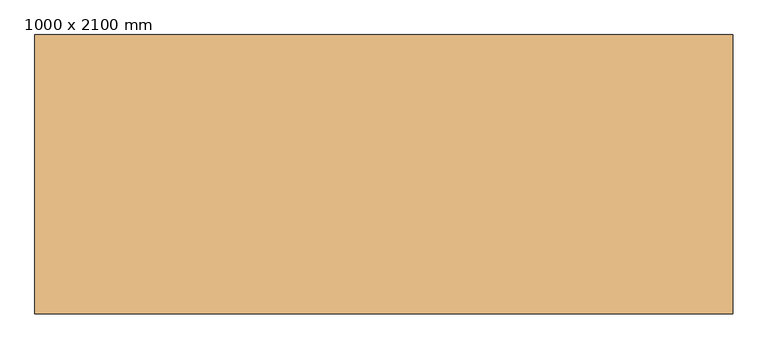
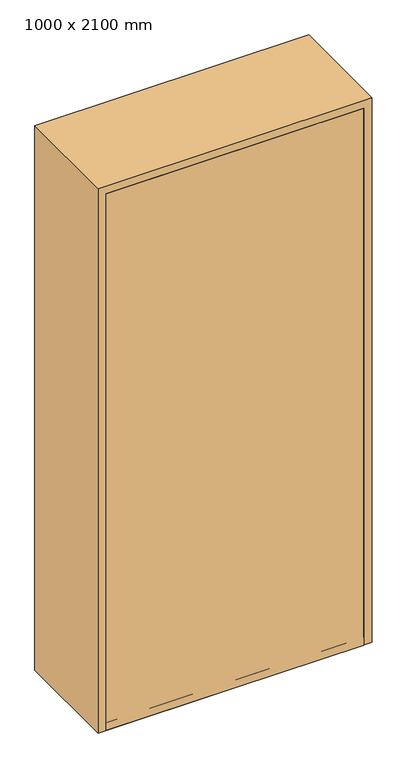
"""IFC4 building model written with IfcOpenShell, lengths in millimetres: door geometry, 외여닫이 SD : 1000 x 2100 mm."""

from ifc_helpers import new_model, si_unit, origin, origin_with_axes, place, context, project, spatial, polyline, outline, extrude, faceted_brep, source, transform, mapped, element, save


def door_1000_x_2100_mm_43353cf2(model_context):
    return source(origin(), model_context, "Body", "SolidModel", [
        extrude(outline(polyline([(-470.0, -200.0), (-470.0, -150.0), (470.0, -150.0), (470.0, -200.0), (-470.0, -200.0)])), origin_with_axes(), (0.0, 0.0, 1.0), 2070.0),
        faceted_brep([(500.0, 200.0, 2100.0), (-500.0, 200.0, 2100.0), (-500.0, -200.0, 2100.0), (500.0, -200.0, 2100.0), (455.0, -150.0, 2055.0), (-455.0, -150.0, 2055.0), (-455.0, 200.0, 2055.0), (455.0, 200.0, 2055.0), (470.0, -200.0, 2070.0), (-470.0, -200.0, 2070.0), (-470.0, -150.0, 2070.0), (470.0, -150.0, 2070.0), (-500.0, 200.0, 0.0), (-500.0, -200.0, 0.0), (-455.0, -150.0, 45.0), (-455.0, 200.0, 45.0), (-470.0, -200.0, 30.0), (-470.0, -150.0, 30.0), (500.0, 200.0, 0.0), (500.0, -200.0, 0.0), (455.0, -150.0, 45.0), (455.0, 200.0, 45.0), (470.0, -200.0, 30.0), (470.0, -150.0, 30.0)], [[[0, 1, 2, 3]], [[4, 5, 6, 7]], [[8, 9, 10, 11]], [[1, 12, 13, 2]], [[5, 14, 15, 6]], [[9, 16, 17, 10]], [[12, 18, 19, 13]], [[14, 20, 21, 15]], [[16, 22, 23, 17]], [[3, 2, 13, 19], [9, 8, 22, 16]], [[18, 0, 3, 19]], [[1, 0, 18, 12], [7, 6, 15, 21]], [[20, 4, 7, 21]], [[11, 10, 17, 23], [5, 4, 20, 14]], [[22, 8, 11, 23]]]),
    ])


if __name__ == "__main__":
    model = new_model("IFC4")
    model_context = context("Model", 3, world=origin())
    ifc_project = project(units=[si_unit("LENGTHUNIT", "METRE", prefix="MILLI")], contexts=[model_context])
    site = spatial("IfcSite", under=ifc_project)
    building = spatial("IfcBuilding", under=site)
    placement = place(None, origin())
    door_1000_x_2100_mm_shape = door_1000_x_2100_mm_43353cf2(model_context)
    element("IfcDoor", 1, ObjectType="외여닫이 SD : 1000 x 2100 mm", at=placement, inside=building, context=model_context, shape_type="MappedRepresentation", body=[
        mapped(door_1000_x_2100_mm_shape, transform((0.0, 0.0, 0.0), x_axis=(1.0, 0.0, 0.0), y_axis=(0.0, 1.0, 0.0), z_axis=(0.0, 0.0, 1.0))),
    ])
    save(model, "model.ifc")
